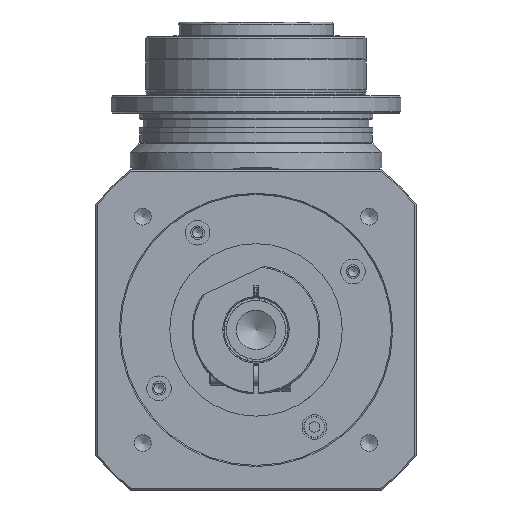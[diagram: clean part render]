
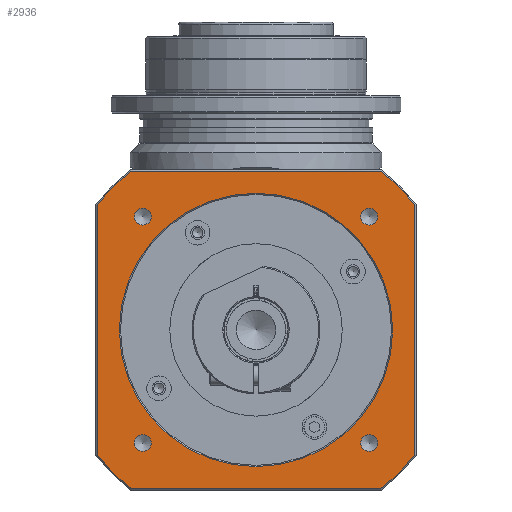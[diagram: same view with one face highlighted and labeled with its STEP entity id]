
A CAD part, front view. The second image highlights one B-rep face of the part: STEP entity #2936.
In plain terms, the highlighted planar face has unit normal (0, -1, 0).
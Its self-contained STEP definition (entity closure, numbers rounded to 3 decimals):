
#1079=PLANE('',#11565);
#1582=LINE('',#19481,#2068);
#1583=LINE('',#19486,#2069);
#1584=LINE('',#19490,#2070);
#1585=LINE('',#19494,#2071);
#2068=VECTOR('',#14605,1.);
#2069=VECTOR('',#14608,1.);
#2070=VECTOR('',#14611,1.);
#2071=VECTOR('',#14614,1.);
#2936=ADVANCED_FACE('',(#3687,#3688,#3689,#3690,#3691,#3692),#1079,.F.);
#3687=FACE_BOUND('',#4743,.T.);
#3688=FACE_BOUND('',#4744,.T.);
#3689=FACE_BOUND('',#4745,.T.);
#3690=FACE_BOUND('',#4746,.T.);
#3691=FACE_BOUND('',#4747,.T.);
#3692=FACE_BOUND('',#4748,.T.);
#4743=EDGE_LOOP('',(#7236));
#4744=EDGE_LOOP('',(#7237));
#4745=EDGE_LOOP('',(#7238));
#4746=EDGE_LOOP('',(#7239));
#4747=EDGE_LOOP('',(#7240,#7241,#7242,#7243,#7244,#7245,#7246,#7247));
#4748=EDGE_LOOP('',(#7248));
#7236=ORIENTED_EDGE('',*,*,#9615,.T.);
#7237=ORIENTED_EDGE('',*,*,#9616,.T.);
#7238=ORIENTED_EDGE('',*,*,#9617,.T.);
#7239=ORIENTED_EDGE('',*,*,#9618,.T.);
#7240=ORIENTED_EDGE('',*,*,#9619,.T.);
#7241=ORIENTED_EDGE('',*,*,#9620,.T.);
#7242=ORIENTED_EDGE('',*,*,#9621,.T.);
#7243=ORIENTED_EDGE('',*,*,#9622,.T.);
#7244=ORIENTED_EDGE('',*,*,#9623,.T.);
#7245=ORIENTED_EDGE('',*,*,#9624,.T.);
#7246=ORIENTED_EDGE('',*,*,#9625,.T.);
#7247=ORIENTED_EDGE('',*,*,#9626,.T.);
#7248=ORIENTED_EDGE('',*,*,#9627,.T.);
#8347=VERTEX_POINT('',#19474);
#8348=VERTEX_POINT('',#19476);
#8349=VERTEX_POINT('',#19478);
#8350=VERTEX_POINT('',#19480);
#8351=VERTEX_POINT('',#19482);
#8352=VERTEX_POINT('',#19483);
#8353=VERTEX_POINT('',#19485);
#8354=VERTEX_POINT('',#19487);
#8355=VERTEX_POINT('',#19489);
#8356=VERTEX_POINT('',#19491);
#8357=VERTEX_POINT('',#19493);
#8358=VERTEX_POINT('',#19495);
#8359=VERTEX_POINT('',#19498);
#9615=EDGE_CURVE('',#8347,#8347,#10285,.T.);
#9616=EDGE_CURVE('',#8348,#8348,#10286,.T.);
#9617=EDGE_CURVE('',#8349,#8349,#10287,.T.);
#9618=EDGE_CURVE('',#8350,#8350,#10288,.T.);
#9619=EDGE_CURVE('',#8351,#8352,#1582,.T.);
#9620=EDGE_CURVE('',#8352,#8353,#10289,.T.);
#9621=EDGE_CURVE('',#8353,#8354,#1583,.T.);
#9622=EDGE_CURVE('',#8354,#8355,#10290,.T.);
#9623=EDGE_CURVE('',#8355,#8356,#1584,.T.);
#9624=EDGE_CURVE('',#8356,#8357,#10291,.T.);
#9625=EDGE_CURVE('',#8357,#8358,#1585,.T.);
#9626=EDGE_CURVE('',#8358,#8351,#10292,.T.);
#9627=EDGE_CURVE('',#8359,#8359,#10293,.T.);
#10285=CIRCLE('',#11556,3.4);
#10286=CIRCLE('',#11557,3.4);
#10287=CIRCLE('',#11558,3.4);
#10288=CIRCLE('',#11559,3.4);
#10289=CIRCLE('',#11560,82.);
#10290=CIRCLE('',#11561,82.);
#10291=CIRCLE('',#11562,82.);
#10292=CIRCLE('',#11563,82.);
#10293=CIRCLE('',#11564,55.5);
#11556=AXIS2_PLACEMENT_3D('',#19473,#14597,#14598);
#11557=AXIS2_PLACEMENT_3D('',#19475,#14599,#14600);
#11558=AXIS2_PLACEMENT_3D('',#19477,#14601,#14602);
#11559=AXIS2_PLACEMENT_3D('',#19479,#14603,#14604);
#11560=AXIS2_PLACEMENT_3D('',#19484,#14606,#14607);
#11561=AXIS2_PLACEMENT_3D('',#19488,#14609,#14610);
#11562=AXIS2_PLACEMENT_3D('',#19492,#14612,#14613);
#11563=AXIS2_PLACEMENT_3D('',#19496,#14615,#14616);
#11564=AXIS2_PLACEMENT_3D('',#19497,#14617,#14618);
#11565=AXIS2_PLACEMENT_3D('',#19499,#14619,#14620);
#14597=DIRECTION('',(0.,1.,0.));
#14598=DIRECTION('',(0.,0.,1.));
#14599=DIRECTION('',(0.,1.,0.));
#14600=DIRECTION('',(0.,0.,1.));
#14601=DIRECTION('',(0.,1.,0.));
#14602=DIRECTION('',(0.,0.,1.));
#14603=DIRECTION('',(0.,1.,0.));
#14604=DIRECTION('',(0.,0.,1.));
#14605=DIRECTION('',(1.,0.,0.));
#14606=DIRECTION('',(0.,-1.,0.));
#14607=DIRECTION('',(0.,0.,1.));
#14608=DIRECTION('',(0.,0.,1.));
#14609=DIRECTION('',(0.,-1.,0.));
#14610=DIRECTION('',(0.,0.,1.));
#14611=DIRECTION('',(-1.,0.,0.));
#14612=DIRECTION('',(0.,-1.,0.));
#14613=DIRECTION('',(0.,0.,1.));
#14614=DIRECTION('',(0.,0.,-1.));
#14615=DIRECTION('',(0.,-1.,0.));
#14616=DIRECTION('',(0.,0.,1.));
#14617=DIRECTION('',(0.,1.,0.));
#14618=DIRECTION('',(0.,0.,1.));
#14619=DIRECTION('',(0.,1.,0.));
#14620=DIRECTION('',(0.,0.,1.));
#19473=CARTESIAN_POINT('',(45.962,-50.,-103.962));
#19474=CARTESIAN_POINT('',(45.962,-50.,-100.562));
#19475=CARTESIAN_POINT('',(-45.962,-50.,-103.962));
#19476=CARTESIAN_POINT('',(-45.962,-50.,-100.562));
#19477=CARTESIAN_POINT('',(-45.962,-50.,-12.038));
#19478=CARTESIAN_POINT('',(-45.962,-50.,-8.638));
#19479=CARTESIAN_POINT('',(45.962,-50.,-12.038));
#19480=CARTESIAN_POINT('',(45.962,-50.,-8.638));
#19481=CARTESIAN_POINT('',(50.806,-50.,-122.5));
#19482=CARTESIAN_POINT('',(-50.633,-50.,-122.5));
#19483=CARTESIAN_POINT('',(50.633,-50.,-122.5));
#19484=CARTESIAN_POINT('',(0.,-50.,-58.));
#19485=CARTESIAN_POINT('',(64.5,-50.,-108.633));
#19486=CARTESIAN_POINT('',(64.5,-50.,-7.194));
#19487=CARTESIAN_POINT('',(64.5,-50.,-7.367));
#19488=CARTESIAN_POINT('',(0.,-50.,-58.));
#19489=CARTESIAN_POINT('',(50.633,-50.,6.5));
#19490=CARTESIAN_POINT('',(-50.806,-50.,6.5));
#19491=CARTESIAN_POINT('',(-50.633,-50.,6.5));
#19492=CARTESIAN_POINT('',(0.,-50.,-58.));
#19493=CARTESIAN_POINT('',(-64.5,-50.,-7.367));
#19494=CARTESIAN_POINT('',(-64.5,-50.,-108.806));
#19495=CARTESIAN_POINT('',(-64.5,-50.,-108.633));
#19496=CARTESIAN_POINT('',(0.,-50.,-58.));
#19497=CARTESIAN_POINT('',(0.,-50.,-58.));
#19498=CARTESIAN_POINT('',(0.,-50.,-2.5));
#19499=CARTESIAN_POINT('',(0.,-50.,-140.5));
